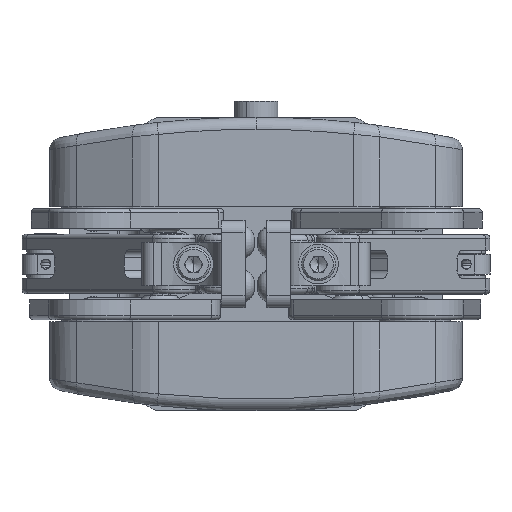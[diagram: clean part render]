
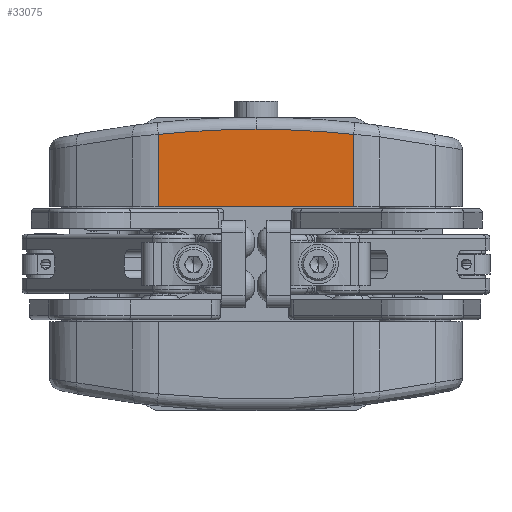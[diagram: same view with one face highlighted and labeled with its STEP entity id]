
A CAD part, front view. The second image highlights one B-rep face of the part: STEP entity #33075.
In plain terms, the highlighted planar face has unit normal (0, -1, 0).
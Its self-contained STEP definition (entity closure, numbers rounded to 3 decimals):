
#527 = CIRCLE ( 'NONE', #61030, 237. ) ;
#1921 = VERTEX_POINT ( 'NONE', #38432 ) ;
#5096 = DIRECTION ( 'NONE',  ( 0., -1., 0. ) ) ;
#5256 = DIRECTION ( 'NONE',  ( 1., 0., 0. ) ) ;
#6629 = CARTESIAN_POINT ( 'NONE',  ( -24.613, -56., 69.5 ) ) ;
#7838 = ORIENTED_EDGE ( 'NONE', *, *, #36926, .T. ) ;
#9979 = CIRCLE ( 'NONE', #62035, 237. ) ;
#10071 = CARTESIAN_POINT ( 'NONE',  ( 0., -56., -203. ) ) ;
#10228 = ORIENTED_EDGE ( 'NONE', *, *, #37249, .T. ) ;
#12637 = VERTEX_POINT ( 'NONE', #37823 ) ;
#16140 = DIRECTION ( 'NONE',  ( 0., -1., 0. ) ) ;
#18504 = VECTOR ( 'NONE', #62157, 1000. ) ;
#18780 = CARTESIAN_POINT ( 'NONE',  ( 24.613, -56., 69.5 ) ) ;
#20844 = FACE_OUTER_BOUND ( 'NONE', #32668, .T. ) ;
#21194 = ORIENTED_EDGE ( 'NONE', *, *, #37572, .T. ) ;
#22741 = VERTEX_POINT ( 'NONE', #50356 ) ;
#25380 = DIRECTION ( 'NONE',  ( 0., 0., 1. ) ) ;
#25617 = LINE ( 'NONE', #6629, #18504 ) ;
#29658 = CARTESIAN_POINT ( 'NONE',  ( 24.613, -56., 32.718 ) ) ;
#32668 = EDGE_LOOP ( 'NONE', ( #38336, #7838, #21194, #10228, #52733 ) ) ;
#32925 = AXIS2_PLACEMENT_3D ( 'NONE', #50461, #55453, #5256 ) ;
#33075 = ADVANCED_FACE ( 'NONE', ( #20844 ), #41481, .F. ) ;
#34476 = VECTOR ( 'NONE', #54348, 1000. ) ;
#34821 = CARTESIAN_POINT ( 'NONE',  ( -45., -56., 14.5 ) ) ;
#36926 = EDGE_CURVE ( 'NONE', #51044, #54045, #9979, .T. ) ;
#37249 = EDGE_CURVE ( 'NONE', #1921, #12637, #25617, .T. ) ;
#37572 = EDGE_CURVE ( 'NONE', #54045, #1921, #527, .T. ) ;
#37823 = CARTESIAN_POINT ( 'NONE',  ( -24.613, -56., 14.5 ) ) ;
#38336 = ORIENTED_EDGE ( 'NONE', *, *, #65805, .F. ) ;
#38432 = CARTESIAN_POINT ( 'NONE',  ( -24.613, -56., 32.718 ) ) ;
#40141 = DIRECTION ( 'NONE',  ( -1., 0., 0. ) ) ;
#41075 = DIRECTION ( 'NONE',  ( 0., 0., 1. ) ) ;
#41481 = PLANE ( 'NONE',  #32925 ) ;
#50068 = CARTESIAN_POINT ( 'NONE',  ( 0., -56., -203. ) ) ;
#50356 = CARTESIAN_POINT ( 'NONE',  ( 24.613, -56., 14.5 ) ) ;
#50461 = CARTESIAN_POINT ( 'NONE',  ( 0., -56., -203. ) ) ;
#51044 = VERTEX_POINT ( 'NONE', #29658 ) ;
#51498 = CARTESIAN_POINT ( 'NONE',  ( 0., -56., 34. ) ) ;
#52733 = ORIENTED_EDGE ( 'NONE', *, *, #60508, .F. ) ;
#54045 = VERTEX_POINT ( 'NONE', #51498 ) ;
#54348 = DIRECTION ( 'NONE',  ( 0., 0., -1. ) ) ;
#55252 = VECTOR ( 'NONE', #40141, 1000. ) ;
#55413 = LINE ( 'NONE', #34821, #55252 ) ;
#55453 = DIRECTION ( 'NONE',  ( 0., 1., 0. ) ) ;
#60508 = EDGE_CURVE ( 'NONE', #22741, #12637, #55413, .T. ) ;
#61030 = AXIS2_PLACEMENT_3D ( 'NONE', #50068, #16140, #41075 ) ;
#62035 = AXIS2_PLACEMENT_3D ( 'NONE', #10071, #5096, #25380 ) ;
#62157 = DIRECTION ( 'NONE',  ( 0., 0., -1. ) ) ;
#64997 = LINE ( 'NONE', #18780, #34476 ) ;
#65805 = EDGE_CURVE ( 'NONE', #51044, #22741, #64997, .T. ) ;
